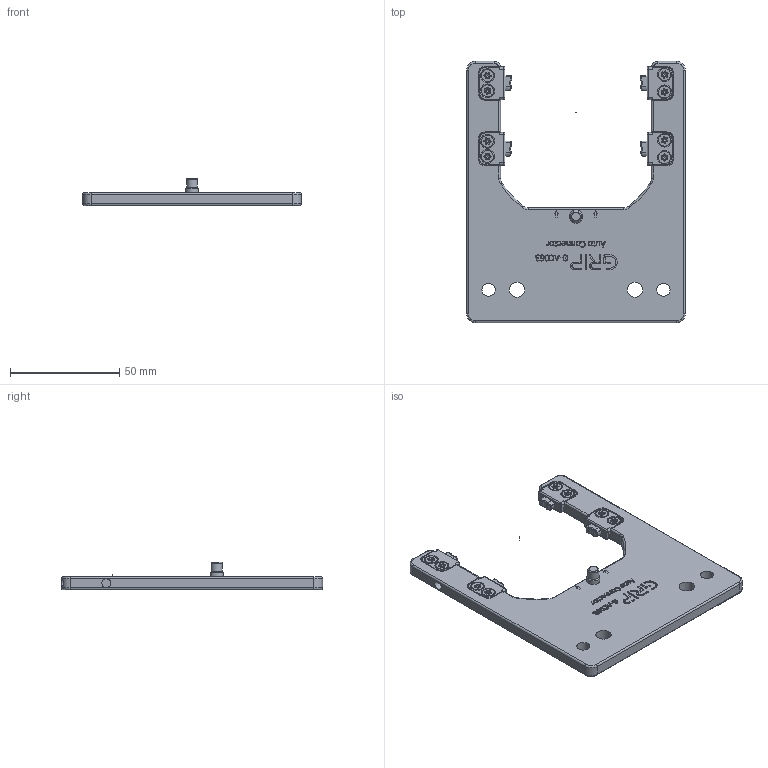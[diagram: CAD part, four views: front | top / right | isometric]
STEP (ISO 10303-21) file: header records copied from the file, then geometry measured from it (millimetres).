
FILE_DESCRIPTION(/* description */ (''),/* implementation_level */ '2;1');
FILE_NAME(/* name */ '3D G-AC063-A1-01_LT_Rev.1.03.stp',/* time_stamp */ '2026-03-24T10:36:23+01:00',/* author */ ('vbednarz'),/* organization */ (''),/* preprocessor_version */ 'ST-DEVELOPER v20.1',/* originating_system */ 'Autodesk Inventor 2026',/* authorisation */ '');
FILE_SCHEMA (('AUTOMOTIVE_DESIGN { 1 0 10303 214 3 1 1 }'));
Length unit declared in the file: millimetre
Products named in the file (1): G-AC063-A1-01
Bounding box: 100 x 119.5 x 12.64 mm (x, y, z)
Volume: 44119.5 mm3; surface area: 21080.8 mm2
Topology: 2 solids, 2 shells, 1139 faces, 2843 edges, 1775 vertices
Faces by surface type: plane 352, cylinder 351, bspline 222, torus 93, cone 89, sphere 32
Full cylindrical faces by diameter (mm): 0.02 x1, 2.5 x1, 2.693 x8, 3 x8, 3.2 x8, 3.5 x1, 4.05 x1, 4.2 x1, 5 x1, 5.5 x8, 6 x1, 6.02 x3, 7 x2
Entity records: 41084 total; most frequent: CARTESIAN_POINT 14022, ORIENTED_EDGE 5670, DIRECTION 4939, EDGE_CURVE 2835, AXIS2_PLACEMENT_3D 1862, VERTEX_POINT 1775, EDGE_LOOP 1226, LINE 1215
